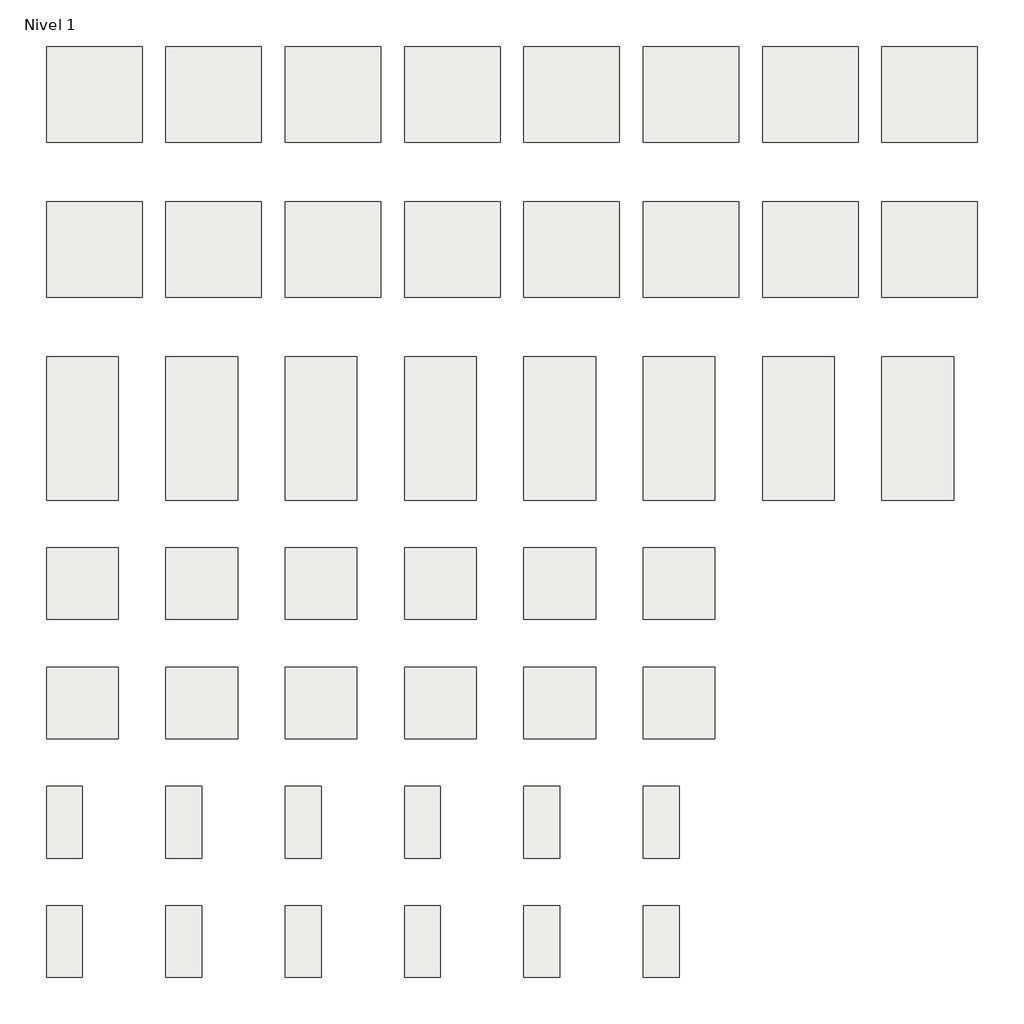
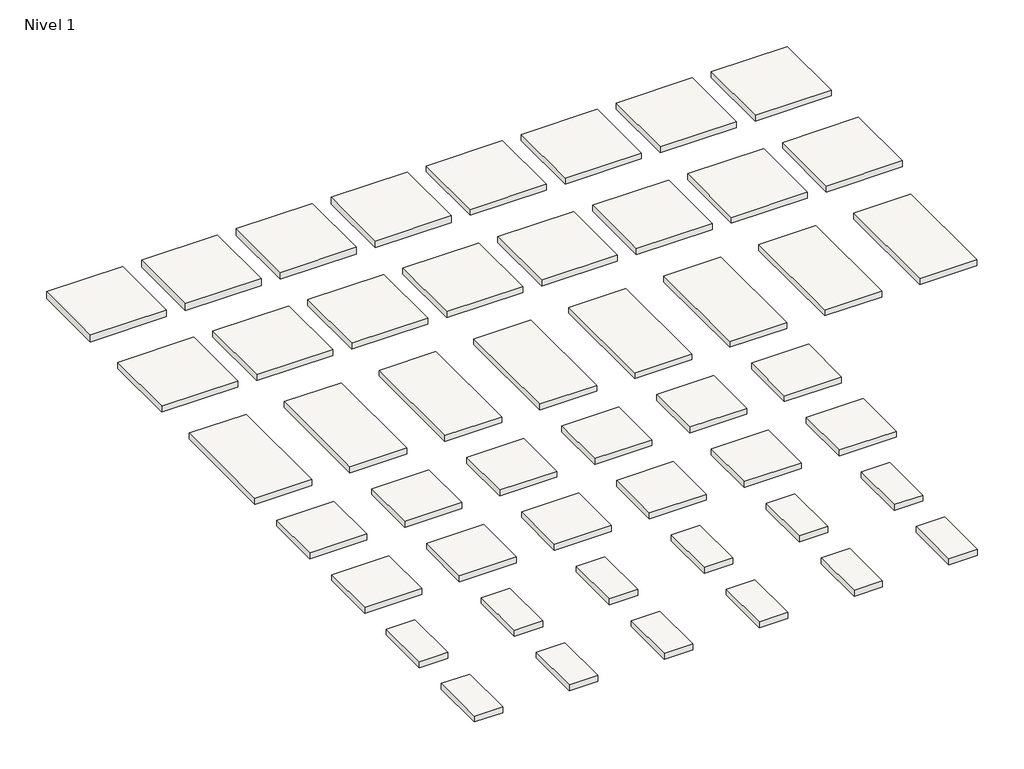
# One storey: 48 slabs.
"""IFC4 building model written with IfcOpenShell, lengths in millimetres."""

from ifc_helpers import new_model, si_unit, frame, origin, place, context, project, spatial, polyline, outline, extrude, element, save

model = new_model("IFC4")

# Units and contexts
model_context = context("Model", 3, world=origin())
ifc_project = project(units=[si_unit("LENGTHUNIT", "METRE", prefix="MILLI")], contexts=[model_context])

# Site, building, storey
site = spatial("IfcSite", under=ifc_project)
building = spatial("IfcBuilding", under=site)
storey = spatial("IfcBuildingStorey", under=building, Name="Nivel 1", Elevation=0.0)

# Slabs
placement = place(None, origin())
element("IfcSlab", 1, ObjectType="Volga Antracita 20 80X80 Nat.", at=placement, inside=storey, context=model_context, shape_type="SweptSolid", body=[
    extrude(outline(polyline([(0.0, 800.0), (800.0, 800.0), (800.0, 0.0), (0.0, 0.0), (0.0, 800.0)])), frame((0.0, 0.0, -75.0), z_axis=(0.0, 0.0, 1.0), x_axis=(1.0, 0.0, 0.0)), (0.0, 0.0, 1.0), 75.0),
])
element("IfcSlab", 2, ObjectType="Volga Arena 20 80X80 Nat.", at=placement, inside=storey, context=model_context, shape_type="SweptSolid", body=[
    extrude(outline(polyline([(1000.0, 800.0), (1800.0, 800.0), (1800.0, 0.0), (1000.0, 0.0), (1000.0, 800.0)])), frame((0.0, 0.0, -75.0), z_axis=(0.0, 0.0, 1.0), x_axis=(1.0, 0.0, 0.0)), (0.0, 0.0, 1.0), 75.0),
])
element("IfcSlab", 3, ObjectType="Volga Grafito 20 80X80 Nat.", at=placement, inside=storey, context=model_context, shape_type="SweptSolid", body=[
    extrude(outline(polyline([(2000.0, 800.0), (2800.0, 800.0), (2800.0, 0.0), (2000.0, 0.0), (2000.0, 800.0)])), frame((0.0, 0.0, -75.0), z_axis=(0.0, 0.0, 1.0), x_axis=(1.0, 0.0, 0.0)), (0.0, 0.0, 1.0), 75.0),
])
element("IfcSlab", 4, ObjectType="Volga Gris 20 80X80 Nat.", at=placement, inside=storey, context=model_context, shape_type="SweptSolid", body=[
    extrude(outline(polyline([(3000.0, 800.0), (3800.0, 800.0), (3800.0, 0.0), (3000.0, 0.0), (3000.0, 800.0)])), frame((0.0, 0.0, -75.0), z_axis=(0.0, 0.0, 1.0), x_axis=(1.0, 0.0, 0.0)), (0.0, 0.0, 1.0), 75.0),
])
element("IfcSlab", 5, ObjectType="Volga Antracita 60X120 Nat.", at=placement, inside=storey, context=model_context, shape_type="SweptSolid", body=[
    extrude(outline(polyline([(0.0, -1800.0), (600.0, -1800.0), (600.0, -3000.0), (0.0, -3000.0), (0.0, -1800.0)])), frame((0.0, 0.0, -65.0), z_axis=(0.0, 0.0, 1.0), x_axis=(1.0, 0.0, 0.0)), (0.0, 0.0, 1.0), 65.0),
])
element("IfcSlab", 6, ObjectType="Volga Arena 60X120 Nat.", at=placement, inside=storey, context=model_context, shape_type="SweptSolid", body=[
    extrude(outline(polyline([(1000.0, -1800.0), (1600.0, -1800.0), (1600.0, -3000.0), (1000.0, -3000.0), (1000.0, -1800.0)])), frame((0.0, 0.0, -65.0), z_axis=(0.0, 0.0, 1.0), x_axis=(1.0, 0.0, 0.0)), (0.0, 0.0, 1.0), 65.0),
])
element("IfcSlab", 7, ObjectType="Volga Grafito 60X120 Nat.", at=placement, inside=storey, context=model_context, shape_type="SweptSolid", body=[
    extrude(outline(polyline([(2000.0, -1800.0), (2600.0, -1800.0), (2600.0, -3000.0), (2000.0, -3000.0), (2000.0, -1800.0)])), frame((0.0, 0.0, -65.0), z_axis=(0.0, 0.0, 1.0), x_axis=(1.0, 0.0, 0.0)), (0.0, 0.0, 1.0), 65.0),
])
element("IfcSlab", 8, ObjectType="Volga Gris 60X120 Nat.", at=placement, inside=storey, context=model_context, shape_type="SweptSolid", body=[
    extrude(outline(polyline([(3000.0, -1800.0), (3600.0, -1800.0), (3600.0, -3000.0), (3000.0, -3000.0), (3000.0, -1800.0)])), frame((0.0, 0.0, -65.0), z_axis=(0.0, 0.0, 1.0), x_axis=(1.0, 0.0, 0.0)), (0.0, 0.0, 1.0), 65.0),
])
element("IfcSlab", 9, ObjectType="Volga Antracita 60X120 Pulido", at=placement, inside=storey, context=model_context, shape_type="SweptSolid", body=[
    extrude(outline(polyline([(4000.0, -1800.0), (4600.0, -1800.0), (4600.0, -3000.0), (4000.0, -3000.0), (4000.0, -1800.0)])), frame((0.0, 0.0, -65.0), z_axis=(0.0, 0.0, 1.0), x_axis=(1.0, 0.0, 0.0)), (0.0, 0.0, 1.0), 65.0),
])
element("IfcSlab", 10, ObjectType="Volga Arena 60X120 Pulido", at=placement, inside=storey, context=model_context, shape_type="SweptSolid", body=[
    extrude(outline(polyline([(5000.0, -1800.0), (5600.0, -1800.0), (5600.0, -3000.0), (5000.0, -3000.0), (5000.0, -1800.0)])), frame((0.0, 0.0, -65.0), z_axis=(0.0, 0.0, 1.0), x_axis=(1.0, 0.0, 0.0)), (0.0, 0.0, 1.0), 65.0),
])
element("IfcSlab", 11, ObjectType="Volga Grafito 60X120 Pulido", at=placement, inside=storey, context=model_context, shape_type="SweptSolid", body=[
    extrude(outline(polyline([(6000.0, -1800.0), (6600.0, -1800.0), (6600.0, -3000.0), (6000.0, -3000.0), (6000.0, -1800.0)])), frame((0.0, 0.0, -65.0), z_axis=(0.0, 0.0, 1.0), x_axis=(1.0, 0.0, 0.0)), (0.0, 0.0, 1.0), 65.0),
])
element("IfcSlab", 12, ObjectType="Volga Gris 60X120 Pulido", at=placement, inside=storey, context=model_context, shape_type="SweptSolid", body=[
    extrude(outline(polyline([(7000.0, -1800.0), (7600.0, -1800.0), (7600.0, -3000.0), (7000.0, -3000.0), (7000.0, -1800.0)])), frame((0.0, 0.0, -65.0), z_axis=(0.0, 0.0, 1.0), x_axis=(1.0, 0.0, 0.0)), (0.0, 0.0, 1.0), 65.0),
])
element("IfcSlab", 13, ObjectType="Volga Antracita 80X80 Nat.", at=placement, inside=storey, context=model_context, shape_type="SweptSolid", body=[
    extrude(outline(polyline([(4000.0, 800.0), (4800.0, 800.0), (4800.0, 0.0), (4000.0, 0.0), (4000.0, 800.0)])), frame((0.0, 0.0, -65.0), z_axis=(0.0, 0.0, 1.0), x_axis=(1.0, 0.0, 0.0)), (0.0, 0.0, 1.0), 65.0),
])
element("IfcSlab", 14, ObjectType="Volga Arena 80X80 Nat.", at=placement, inside=storey, context=model_context, shape_type="SweptSolid", body=[
    extrude(outline(polyline([(5000.0, 800.0), (5800.0, 800.0), (5800.0, 0.0), (5000.0, 0.0), (5000.0, 800.0)])), frame((0.0, 0.0, -66.3), z_axis=(0.0, 0.0, 1.0), x_axis=(1.0, 0.0, 0.0)), (0.0, 0.0, 1.0), 66.3),
])
element("IfcSlab", 15, ObjectType="Volga Grafito 80X80 Nat.", at=placement, inside=storey, context=model_context, shape_type="SweptSolid", body=[
    extrude(outline(polyline([(6000.0, 800.0), (6800.0, 800.0), (6800.0, 0.0), (6000.0, 0.0), (6000.0, 800.0)])), frame((0.0, 0.0, -66.3), z_axis=(0.0, 0.0, 1.0), x_axis=(1.0, 0.0, 0.0)), (0.0, 0.0, 1.0), 66.3),
])
element("IfcSlab", 16, ObjectType="Volga Gris 80X80 Nat.", at=placement, inside=storey, context=model_context, shape_type="SweptSolid", body=[
    extrude(outline(polyline([(7000.0, 800.0), (7800.0, 800.0), (7800.0, 0.0), (7000.0, 0.0), (7000.0, 800.0)])), frame((0.0, 0.0, -65.0), z_axis=(0.0, 0.0, 1.0), x_axis=(1.0, 0.0, 0.0)), (0.0, 0.0, 1.0), 65.0),
])
element("IfcSlab", 17, ObjectType="Volga Antracita 80X80 Pulido", at=placement, inside=storey, context=model_context, shape_type="SweptSolid", body=[
    extrude(outline(polyline([(0.0, -500.0), (800.0, -500.0), (800.0, -1300.0), (0.0, -1300.0), (0.0, -500.0)])), frame((0.0, 0.0, -66.3), z_axis=(0.0, 0.0, 1.0), x_axis=(1.0, 0.0, 0.0)), (0.0, 0.0, 1.0), 66.3),
])
element("IfcSlab", 18, ObjectType="Volga Arena 80X80 Pulido", at=placement, inside=storey, context=model_context, shape_type="SweptSolid", body=[
    extrude(outline(polyline([(1000.0, -500.0), (1800.0, -500.0), (1800.0, -1300.0), (1000.0, -1300.0), (1000.0, -500.0)])), frame((0.0, 0.0, -66.3), z_axis=(0.0, 0.0, 1.0), x_axis=(1.0, 0.0, 0.0)), (0.0, 0.0, 1.0), 66.3),
])
element("IfcSlab", 19, ObjectType="Volga Grafito 80X80 Pulido", at=placement, inside=storey, context=model_context, shape_type="SweptSolid", body=[
    extrude(outline(polyline([(2000.0, -500.0), (2800.0, -500.0), (2800.0, -1300.0), (2000.0, -1300.0), (2000.0, -500.0)])), frame((0.0, 0.0, -66.3), z_axis=(0.0, 0.0, 1.0), x_axis=(1.0, 0.0, 0.0)), (0.0, 0.0, 1.0), 66.3),
])
element("IfcSlab", 20, ObjectType="Volga Gris 80X80 Pulido", at=placement, inside=storey, context=model_context, shape_type="SweptSolid", body=[
    extrude(outline(polyline([(3000.0, -500.0), (3800.0, -500.0), (3800.0, -1300.0), (3000.0, -1300.0), (3000.0, -500.0)])), frame((0.0, 0.0, -66.3), z_axis=(0.0, 0.0, 1.0), x_axis=(1.0, 0.0, 0.0)), (0.0, 0.0, 1.0), 66.3),
])
element("IfcSlab", 21, ObjectType="Volga Antracita 80X80 Rel.", at=placement, inside=storey, context=model_context, shape_type="SweptSolid", body=[
    extrude(outline(polyline([(4000.0, -500.0), (4800.0, -500.0), (4800.0, -1300.0), (4000.0, -1300.0), (4000.0, -500.0)])), frame((0.0, 0.0, -65.0), z_axis=(0.0, 0.0, 1.0), x_axis=(1.0, 0.0, 0.0)), (0.0, 0.0, 1.0), 65.0),
])
element("IfcSlab", 22, ObjectType="Volga Arena 80X80 Rel.", at=placement, inside=storey, context=model_context, shape_type="SweptSolid", body=[
    extrude(outline(polyline([(5000.0, -500.0), (5800.0, -500.0), (5800.0, -1300.0), (5000.0, -1300.0), (5000.0, -500.0)])), frame((0.0, 0.0, -66.3), z_axis=(0.0, 0.0, 1.0), x_axis=(1.0, 0.0, 0.0)), (0.0, 0.0, 1.0), 66.3),
])
element("IfcSlab", 23, ObjectType="Volga Grafito 80X80 Rel.", at=placement, inside=storey, context=model_context, shape_type="SweptSolid", body=[
    extrude(outline(polyline([(6000.0, -500.0), (6800.0, -500.0), (6800.0, -1300.0), (6000.0, -1300.0), (6000.0, -500.0)])), frame((0.0, 0.0, -66.3), z_axis=(0.0, 0.0, 1.0), x_axis=(1.0, 0.0, 0.0)), (0.0, 0.0, 1.0), 66.3),
])
element("IfcSlab", 24, ObjectType="Volga Gris 80X80 Rel.", at=placement, inside=storey, context=model_context, shape_type="SweptSolid", body=[
    extrude(outline(polyline([(7000.0, -500.0), (7800.0, -500.0), (7800.0, -1300.0), (7000.0, -1300.0), (7000.0, -500.0)])), frame((0.0, 0.0, -66.3), z_axis=(0.0, 0.0, 1.0), x_axis=(1.0, 0.0, 0.0)), (0.0, 0.0, 1.0), 66.3),
])
element("IfcSlab", 25, ObjectType="Volga Antracita 60X60 Nat.", at=placement, inside=storey, context=model_context, shape_type="SweptSolid", body=[
    extrude(outline(polyline([(0.0, -3400.0), (600.0, -3400.0), (600.0, -4000.0), (0.0, -4000.0), (0.0, -3400.0)])), frame((0.0, 0.0, -65.0), z_axis=(0.0, 0.0, 1.0), x_axis=(1.0, 0.0, 0.0)), (0.0, 0.0, 1.0), 65.0),
])
element("IfcSlab", 26, ObjectType="Volga Arena 60X60 Nat.", at=placement, inside=storey, context=model_context, shape_type="SweptSolid", body=[
    extrude(outline(polyline([(1000.0, -3400.0), (1600.0, -3400.0), (1600.0, -4000.0), (1000.0, -4000.0), (1000.0, -3400.0)])), frame((0.0, 0.0, -65.0), z_axis=(0.0, 0.0, 1.0), x_axis=(1.0, 0.0, 0.0)), (0.0, 0.0, 1.0), 65.0),
])
element("IfcSlab", 27, ObjectType="Volga Grafito 60X60 Nat.", at=placement, inside=storey, context=model_context, shape_type="SweptSolid", body=[
    extrude(outline(polyline([(2000.0, -3400.0), (2600.0, -3400.0), (2600.0, -4000.0), (2000.0, -4000.0), (2000.0, -3400.0)])), frame((0.0, 0.0, -65.0), z_axis=(0.0, 0.0, 1.0), x_axis=(1.0, 0.0, 0.0)), (0.0, 0.0, 1.0), 65.0),
])
element("IfcSlab", 28, ObjectType="Volga Gris 60X60 Nat.", at=placement, inside=storey, context=model_context, shape_type="SweptSolid", body=[
    extrude(outline(polyline([(3000.0, -3400.0), (3600.0, -3400.0), (3600.0, -4000.0), (3000.0, -4000.0), (3000.0, -3400.0)])), frame((0.0, 0.0, -65.0), z_axis=(0.0, 0.0, 1.0), x_axis=(1.0, 0.0, 0.0)), (0.0, 0.0, 1.0), 65.0),
])
element("IfcSlab", 29, ObjectType="Volga Antracita 60X60 Pulido", at=placement, inside=storey, context=model_context, shape_type="SweptSolid", body=[
    extrude(outline(polyline([(4000.0, -3400.0), (4600.0, -3400.0), (4600.0, -4000.0), (4000.0, -4000.0), (4000.0, -3400.0)])), frame((0.0, 0.0, -65.0), z_axis=(0.0, 0.0, 1.0), x_axis=(1.0, 0.0, 0.0)), (0.0, 0.0, 1.0), 65.0),
])
element("IfcSlab", 30, ObjectType="Volga Arena 60X60 Pulido", at=placement, inside=storey, context=model_context, shape_type="SweptSolid", body=[
    extrude(outline(polyline([(5000.0, -3400.0), (5600.0, -3400.0), (5600.0, -4000.0), (5000.0, -4000.0), (5000.0, -3400.0)])), frame((0.0, 0.0, -65.0), z_axis=(0.0, 0.0, 1.0), x_axis=(1.0, 0.0, 0.0)), (0.0, 0.0, 1.0), 65.0),
])
element("IfcSlab", 31, ObjectType="Volga Grafito 60X60 Pulido", at=placement, inside=storey, context=model_context, shape_type="SweptSolid", body=[
    extrude(outline(polyline([(0.0, -4400.0), (600.0, -4400.0), (600.0, -5000.0), (0.0, -5000.0), (0.0, -4400.0)])), frame((0.0, 0.0, -65.0), z_axis=(0.0, 0.0, 1.0), x_axis=(1.0, 0.0, 0.0)), (0.0, 0.0, 1.0), 65.0),
])
element("IfcSlab", 32, ObjectType="Volga Gris 60X60 Pulido", at=placement, inside=storey, context=model_context, shape_type="SweptSolid", body=[
    extrude(outline(polyline([(1000.0, -4400.0), (1600.0, -4400.0), (1600.0, -5000.0), (1000.0, -5000.0), (1000.0, -4400.0)])), frame((0.0, 0.0, -65.0), z_axis=(0.0, 0.0, 1.0), x_axis=(1.0, 0.0, 0.0)), (0.0, 0.0, 1.0), 65.0),
])
element("IfcSlab", 33, ObjectType="Volga Antracita 60X60 Rel.", at=placement, inside=storey, context=model_context, shape_type="SweptSolid", body=[
    extrude(outline(polyline([(2000.0, -4400.0), (2600.0, -4400.0), (2600.0, -5000.0), (2000.0, -5000.0), (2000.0, -4400.0)])), frame((0.0, 0.0, -65.0), z_axis=(0.0, 0.0, 1.0), x_axis=(1.0, 0.0, 0.0)), (0.0, 0.0, 1.0), 65.0),
])
element("IfcSlab", 34, ObjectType="Volga Arena 60X60 Rel.", at=placement, inside=storey, context=model_context, shape_type="SweptSolid", body=[
    extrude(outline(polyline([(3000.0, -4400.0), (3600.0, -4400.0), (3600.0, -5000.0), (3000.0, -5000.0), (3000.0, -4400.0)])), frame((0.0, 0.0, -65.0), z_axis=(0.0, 0.0, 1.0), x_axis=(1.0, 0.0, 0.0)), (0.0, 0.0, 1.0), 65.0),
])
element("IfcSlab", 35, ObjectType="Volga Grafito 60X60 Rel.", at=placement, inside=storey, context=model_context, shape_type="SweptSolid", body=[
    extrude(outline(polyline([(4000.0, -4400.0), (4600.0, -4400.0), (4600.0, -5000.0), (4000.0, -5000.0), (4000.0, -4400.0)])), frame((0.0, 0.0, -65.0), z_axis=(0.0, 0.0, 1.0), x_axis=(1.0, 0.0, 0.0)), (0.0, 0.0, 1.0), 65.0),
])
element("IfcSlab", 36, ObjectType="Volga Gris 60X60 Rel.", at=placement, inside=storey, context=model_context, shape_type="SweptSolid", body=[
    extrude(outline(polyline([(5000.0, -4400.0), (5600.0, -4400.0), (5600.0, -5000.0), (5000.0, -5000.0), (5000.0, -4400.0)])), frame((0.0, 0.0, -65.0), z_axis=(0.0, 0.0, 1.0), x_axis=(1.0, 0.0, 0.0)), (0.0, 0.0, 1.0), 65.0),
])
element("IfcSlab", 37, ObjectType="Volga Antracita 30X60 Nat.", at=placement, inside=storey, context=model_context, shape_type="SweptSolid", body=[
    extrude(outline(polyline([(0.0, -5400.0), (300.0, -5400.0), (300.0, -6000.0), (0.0, -6000.0), (0.0, -5400.0)])), frame((0.0, 0.0, -65.0), z_axis=(0.0, 0.0, 1.0), x_axis=(1.0, 0.0, 0.0)), (0.0, 0.0, 1.0), 65.0),
])
element("IfcSlab", 38, ObjectType="Volga Arena 30X60 Nat.", at=placement, inside=storey, context=model_context, shape_type="SweptSolid", body=[
    extrude(outline(polyline([(1000.0, -5400.0), (1300.0, -5400.0), (1300.0, -6000.0), (1000.0, -6000.0), (1000.0, -5400.0)])), frame((0.0, 0.0, -65.0), z_axis=(0.0, 0.0, 1.0), x_axis=(1.0, 0.0, 0.0)), (0.0, 0.0, 1.0), 65.0),
])
element("IfcSlab", 39, ObjectType="Volga Grafito 30X60 Nat.", at=placement, inside=storey, context=model_context, shape_type="SweptSolid", body=[
    extrude(outline(polyline([(2000.0, -5400.0), (2300.0, -5400.0), (2300.0, -6000.0), (2000.0, -6000.0), (2000.0, -5400.0)])), frame((0.0, 0.0, -65.0), z_axis=(0.0, 0.0, 1.0), x_axis=(1.0, 0.0, 0.0)), (0.0, 0.0, 1.0), 65.0),
])
element("IfcSlab", 40, ObjectType="Volga Gris 30X60 Nat.", at=placement, inside=storey, context=model_context, shape_type="SweptSolid", body=[
    extrude(outline(polyline([(3000.0, -5400.0), (3300.0, -5400.0), (3300.0, -6000.0), (3000.0, -6000.0), (3000.0, -5400.0)])), frame((0.0, 0.0, -65.0), z_axis=(0.0, 0.0, 1.0), x_axis=(1.0, 0.0, 0.0)), (0.0, 0.0, 1.0), 65.0),
])
element("IfcSlab", 41, ObjectType="Volga Antracita 30X60 Pulido", at=placement, inside=storey, context=model_context, shape_type="SweptSolid", body=[
    extrude(outline(polyline([(4000.0, -5400.0), (4300.0, -5400.0), (4300.0, -6000.0), (4000.0, -6000.0), (4000.0, -5400.0)])), frame((0.0, 0.0, -65.0), z_axis=(0.0, 0.0, 1.0), x_axis=(1.0, 0.0, 0.0)), (0.0, 0.0, 1.0), 65.0),
])
element("IfcSlab", 42, ObjectType="Volga Arena 30X60 Pulido", at=placement, inside=storey, context=model_context, shape_type="SweptSolid", body=[
    extrude(outline(polyline([(5000.0, -5400.0), (5300.0, -5400.0), (5300.0, -6000.0), (5000.0, -6000.0), (5000.0, -5400.0)])), frame((0.0, 0.0, -65.0), z_axis=(0.0, 0.0, 1.0), x_axis=(1.0, 0.0, 0.0)), (0.0, 0.0, 1.0), 65.0),
])
element("IfcSlab", 43, ObjectType="Volga Grafito 30X60 Pulido", at=placement, inside=storey, context=model_context, shape_type="SweptSolid", body=[
    extrude(outline(polyline([(0.0, -6400.0), (300.0, -6400.0), (300.0, -7000.0), (0.0, -7000.0), (0.0, -6400.0)])), frame((0.0, 0.0, -65.0), z_axis=(0.0, 0.0, 1.0), x_axis=(1.0, 0.0, 0.0)), (0.0, 0.0, 1.0), 65.0),
])
element("IfcSlab", 44, ObjectType="Volga Gris 30X60 Pulido", at=placement, inside=storey, context=model_context, shape_type="SweptSolid", body=[
    extrude(outline(polyline([(1000.0, -6400.0), (1300.0, -6400.0), (1300.0, -7000.0), (1000.0, -7000.0), (1000.0, -6400.0)])), frame((0.0, 0.0, -65.0), z_axis=(0.0, 0.0, 1.0), x_axis=(1.0, 0.0, 0.0)), (0.0, 0.0, 1.0), 65.0),
])
element("IfcSlab", 45, ObjectType="Volga Antracita 30X60 Rel.", at=placement, inside=storey, context=model_context, shape_type="SweptSolid", body=[
    extrude(outline(polyline([(2000.0, -6400.0), (2300.0, -6400.0), (2300.0, -7000.0), (2000.0, -7000.0), (2000.0, -6400.0)])), frame((0.0, 0.0, -65.0), z_axis=(0.0, 0.0, 1.0), x_axis=(1.0, 0.0, 0.0)), (0.0, 0.0, 1.0), 65.0),
])
element("IfcSlab", 46, ObjectType="Volga Arena 30X60 Rel.", at=placement, inside=storey, context=model_context, shape_type="SweptSolid", body=[
    extrude(outline(polyline([(3000.0, -6400.0), (3300.0, -6400.0), (3300.0, -7000.0), (3000.0, -7000.0), (3000.0, -6400.0)])), frame((0.0, 0.0, -65.0), z_axis=(0.0, 0.0, 1.0), x_axis=(1.0, 0.0, 0.0)), (0.0, 0.0, 1.0), 65.0),
])
element("IfcSlab", 47, ObjectType="Volga Grafito 30X60 Rel.", at=placement, inside=storey, context=model_context, shape_type="SweptSolid", body=[
    extrude(outline(polyline([(4000.0, -6400.0), (4300.0, -6400.0), (4300.0, -7000.0), (4000.0, -7000.0), (4000.0, -6400.0)])), frame((0.0, 0.0, -65.0), z_axis=(0.0, 0.0, 1.0), x_axis=(1.0, 0.0, 0.0)), (0.0, 0.0, 1.0), 65.0),
])
element("IfcSlab", 48, ObjectType="Volga Gris 30X60 Rel.", at=placement, inside=storey, context=model_context, shape_type="SweptSolid", body=[
    extrude(outline(polyline([(5000.0, -6400.0), (5300.0, -6400.0), (5300.0, -7000.0), (5000.0, -7000.0), (5000.0, -6400.0)])), frame((0.0, 0.0, -65.0), z_axis=(0.0, 0.0, 1.0), x_axis=(1.0, 0.0, 0.0)), (0.0, 0.0, 1.0), 65.0),
])

save(model, "model.ifc")
